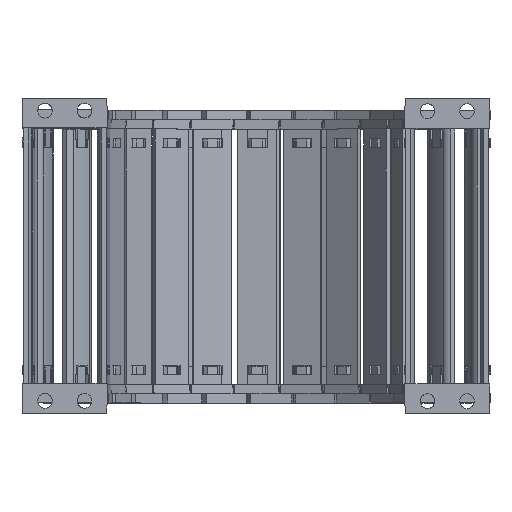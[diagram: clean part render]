
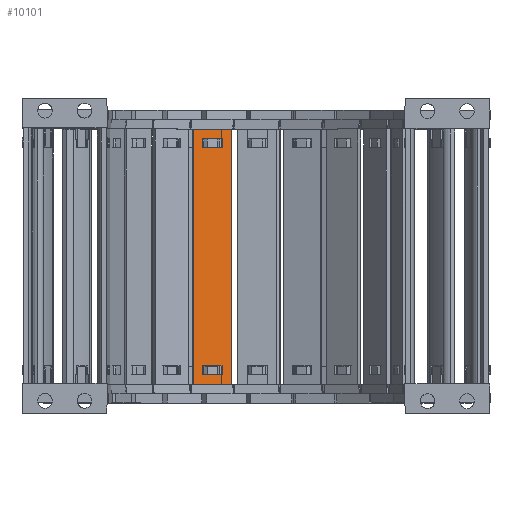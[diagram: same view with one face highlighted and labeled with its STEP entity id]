
A CAD part, top view. The second image highlights one B-rep face of the part: STEP entity #10101.
In plain terms, the highlighted planar face has unit normal (0.259, 0, 0.966).
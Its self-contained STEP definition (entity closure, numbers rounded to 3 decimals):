
#4663=FACE_BOUND('',#23383,.T.);
#4664=FACE_BOUND('',#23384,.T.);
#4665=FACE_BOUND('',#23385,.T.);
#5651=PLANE('',#121248);
#10101=ADVANCED_FACE('',(#4663,#4664,#4665),#5651,.F.);
#23383=EDGE_LOOP('',(#38223,#38224,#38225,#38226));
#23384=EDGE_LOOP('',(#38227,#38228,#38229,#38230));
#23385=EDGE_LOOP('',(#38231,#38232,#38233,#38234));
#38223=ORIENTED_EDGE('',*,*,#81626,.F.);
#38224=ORIENTED_EDGE('',*,*,#81597,.F.);
#38225=ORIENTED_EDGE('',*,*,#81631,.F.);
#38226=ORIENTED_EDGE('',*,*,#81608,.F.);
#38227=ORIENTED_EDGE('',*,*,#81643,.F.);
#38228=ORIENTED_EDGE('',*,*,#81636,.F.);
#38229=ORIENTED_EDGE('',*,*,#81675,.F.);
#38230=ORIENTED_EDGE('',*,*,#81650,.T.);
#38231=ORIENTED_EDGE('',*,*,#81673,.T.);
#38232=ORIENTED_EDGE('',*,*,#81676,.F.);
#38233=ORIENTED_EDGE('',*,*,#81677,.F.);
#38234=ORIENTED_EDGE('',*,*,#81678,.F.);
#69013=VERTEX_POINT('',#171403);
#69014=VERTEX_POINT('',#171405);
#69020=VERTEX_POINT('',#171420);
#69023=VERTEX_POINT('',#171426);
#69040=VERTEX_POINT('',#171483);
#69041=VERTEX_POINT('',#171484);
#69047=VERTEX_POINT('',#171498);
#69050=VERTEX_POINT('',#171506);
#69063=VERTEX_POINT('',#171553);
#69064=VERTEX_POINT('',#171555);
#69065=VERTEX_POINT('',#171560);
#69066=VERTEX_POINT('',#171562);
#81597=EDGE_CURVE('',#69013,#69014,#98089,.T.);
#81608=EDGE_CURVE('',#69023,#69020,#98100,.T.);
#81626=EDGE_CURVE('',#69014,#69023,#98115,.T.);
#81631=EDGE_CURVE('',#69020,#69013,#98120,.T.);
#81636=EDGE_CURVE('',#69040,#69041,#98125,.T.);
#81643=EDGE_CURVE('',#69041,#69047,#98132,.T.);
#81650=EDGE_CURVE('',#69050,#69047,#98139,.T.);
#81673=EDGE_CURVE('',#69064,#69063,#98153,.T.);
#81675=EDGE_CURVE('',#69050,#69040,#98155,.T.);
#81676=EDGE_CURVE('',#69065,#69063,#98156,.T.);
#81677=EDGE_CURVE('',#69066,#69065,#98157,.T.);
#81678=EDGE_CURVE('',#69064,#69066,#98158,.T.);
#98089=LINE('',#171404,#109721);
#98100=LINE('',#171427,#109732);
#98115=LINE('',#171462,#109747);
#98120=LINE('',#171471,#109752);
#98125=LINE('',#171482,#109757);
#98132=LINE('',#171497,#109764);
#98139=LINE('',#171510,#109771);
#98153=LINE('',#171554,#109785);
#98155=LINE('',#171558,#109787);
#98156=LINE('',#171559,#109788);
#98157=LINE('',#171561,#109789);
#98158=LINE('',#171563,#109790);
#109721=VECTOR('',#135874,1.);
#109732=VECTOR('',#135889,1.);
#109747=VECTOR('',#135924,1.);
#109752=VECTOR('',#135933,1.);
#109757=VECTOR('',#135942,1.);
#109764=VECTOR('',#135951,1.);
#109771=VECTOR('',#135960,1.);
#109785=VECTOR('',#136010,1.);
#109787=VECTOR('',#136014,1.);
#109788=VECTOR('',#136015,1.);
#109789=VECTOR('',#136016,1.);
#109790=VECTOR('',#136017,1.);
#121248=AXIS2_PLACEMENT_3D('',#171564,#136018,#136019);
#135874=DIRECTION('',(0.966,0.,-0.259));
#135889=DIRECTION('',(-0.966,0.,0.259));
#135924=DIRECTION('',(0.,1.,0.));
#135933=DIRECTION('',(0.,-1.,0.));
#135942=DIRECTION('',(-0.966,0.,0.259));
#135951=DIRECTION('',(0.,-1.,0.));
#135960=DIRECTION('',(-0.966,0.,0.259));
#136010=DIRECTION('',(0.,-1.,0.));
#136014=DIRECTION('',(0.,1.,0.));
#136015=DIRECTION('',(-0.966,0.,0.259));
#136016=DIRECTION('',(0.,-1.,0.));
#136017=DIRECTION('',(0.966,0.,-0.259));
#136018=DIRECTION('',(-0.259,0.,-0.966));
#136019=DIRECTION('',(-0.966,0.,0.259));
#171403=CARTESIAN_POINT('',(-99.114,-99.53,-76.948));
#171404=CARTESIAN_POINT('',(-99.114,-99.53,-76.948));
#171405=CARTESIAN_POINT('',(-91.242,-99.53,-79.058));
#171420=CARTESIAN_POINT('',(-99.114,-95.882,-76.948));
#171426=CARTESIAN_POINT('',(-91.242,-95.882,-79.058));
#171427=CARTESIAN_POINT('',(-91.242,-95.882,-79.058));
#171462=CARTESIAN_POINT('',(-91.242,-130.96,-79.058));
#171471=CARTESIAN_POINT('',(-99.114,-127.36,-76.948));
#171482=CARTESIAN_POINT('',(-91.242,-3.97,-79.058));
#171483=CARTESIAN_POINT('',(-91.242,-3.97,-79.058));
#171484=CARTESIAN_POINT('',(-99.114,-3.97,-76.948));
#171497=CARTESIAN_POINT('',(-99.114,-3.97,-76.948));
#171498=CARTESIAN_POINT('',(-99.114,-7.618,-76.948));
#171506=CARTESIAN_POINT('',(-91.242,-7.618,-79.058));
#171510=CARTESIAN_POINT('',(-91.242,-7.618,-79.058));
#171553=CARTESIAN_POINT('',(-102.809,-103.5,-75.959));
#171554=CARTESIAN_POINT('',(-102.809,0.,-75.959));
#171555=CARTESIAN_POINT('',(-102.809,0.,-75.959));
#171558=CARTESIAN_POINT('',(-91.242,-7.618,-79.058));
#171559=CARTESIAN_POINT('',(-87.547,-103.5,-80.048));
#171560=CARTESIAN_POINT('',(-87.547,-103.5,-80.048));
#171561=CARTESIAN_POINT('',(-87.547,0.,-80.048));
#171562=CARTESIAN_POINT('',(-87.547,0.,-80.048));
#171563=CARTESIAN_POINT('',(-102.809,0.,-75.959));
#171564=CARTESIAN_POINT('',(-85.46,31.74,-80.607));
